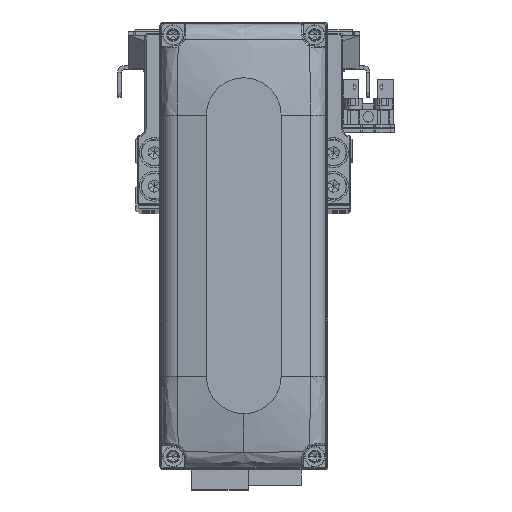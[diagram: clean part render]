
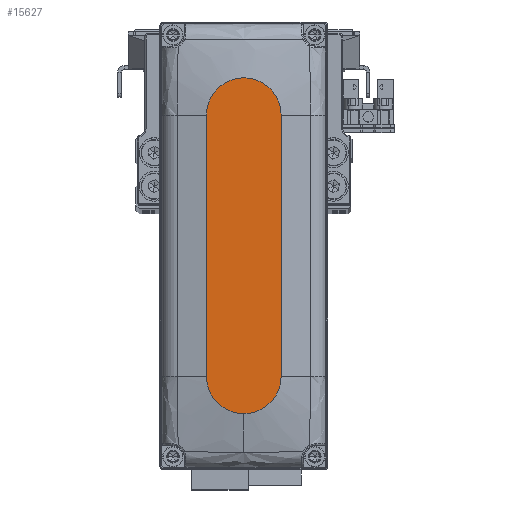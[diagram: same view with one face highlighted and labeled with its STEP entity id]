
A CAD part, top view. The second image highlights one B-rep face of the part: STEP entity #15627.
In plain terms, the highlighted planar face has unit normal (0, 0, 1).
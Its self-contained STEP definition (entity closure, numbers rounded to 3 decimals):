
#1687 = ORIENTED_EDGE ( 'NONE', *, *, #5548, .T. ) ;
#1788 = FACE_OUTER_BOUND ( 'NONE', #40710, .T. ) ;
#2600 = DIRECTION ( 'NONE',  ( 0., 0., 1. ) ) ;
#5548 = EDGE_CURVE ( 'NONE', #8058, #24538, #15238, .T. ) ;
#5943 = CARTESIAN_POINT ( 'NONE',  ( 35., 10., 28. ) ) ;
#7276 = ORIENTED_EDGE ( 'NONE', *, *, #26465, .T. ) ;
#8058 = VERTEX_POINT ( 'NONE', #10633 ) ;
#8967 = VECTOR ( 'NONE', #42406, 1000. ) ;
#9106 = ORIENTED_EDGE ( 'NONE', *, *, #41400, .T. ) ;
#9203 = CIRCLE ( 'NONE', #34469, 10. ) ;
#9444 = VERTEX_POINT ( 'NONE', #27816 ) ;
#10408 = DIRECTION ( 'NONE',  ( -1., 0., 0. ) ) ;
#10633 = CARTESIAN_POINT ( 'NONE',  ( 35., -10., 28. ) ) ;
#11067 = AXIS2_PLACEMENT_3D ( 'NONE', #29387, #43191, #12217 ) ;
#11211 = DIRECTION ( 'NONE',  ( 1., 0., 0. ) ) ;
#12217 = DIRECTION ( 'NONE',  ( 1., 0., 0. ) ) ;
#14807 = LINE ( 'NONE', #28595, #8967 ) ;
#15238 = CIRCLE ( 'NONE', #40536, 10. ) ;
#15587 = PLANE ( 'NONE',  #11067 ) ;
#15627 = ADVANCED_FACE ( 'NONE', ( #1788 ), #15587, .T. ) ;
#16393 = DIRECTION ( 'NONE',  ( 1., 0., 0. ) ) ;
#16499 = CARTESIAN_POINT ( 'NONE',  ( -35., 0., 28. ) ) ;
#17339 = VERTEX_POINT ( 'NONE', #36332 ) ;
#18384 = VECTOR ( 'NONE', #10408, 1000. ) ;
#20759 = ORIENTED_EDGE ( 'NONE', *, *, #34410, .T. ) ;
#24538 = VERTEX_POINT ( 'NONE', #41425 ) ;
#26465 = EDGE_CURVE ( 'NONE', #17339, #8058, #14807, .T. ) ;
#27586 = LINE ( 'NONE', #41397, #18384 ) ;
#27816 = CARTESIAN_POINT ( 'NONE',  ( -35., 10., 28. ) ) ;
#28389 = CARTESIAN_POINT ( 'NONE',  ( 35., 0., 28. ) ) ;
#28595 = CARTESIAN_POINT ( 'NONE',  ( -35., -10., 28. ) ) ;
#29387 = CARTESIAN_POINT ( 'NONE',  ( 0., 0., 28. ) ) ;
#30305 = DIRECTION ( 'NONE',  ( 0., 0., 1. ) ) ;
#31468 = EDGE_CURVE ( 'NONE', #24538, #38670, #37256, .T. ) ;
#33573 = CARTESIAN_POINT ( 'NONE',  ( 35., 0., 28. ) ) ;
#34410 = EDGE_CURVE ( 'NONE', #9444, #17339, #9203, .T. ) ;
#34469 = AXIS2_PLACEMENT_3D ( 'NONE', #16499, #30305, #44116 ) ;
#36332 = CARTESIAN_POINT ( 'NONE',  ( -35., -10., 28. ) ) ;
#37256 = CIRCLE ( 'NONE', #43034, 10. ) ;
#38670 = VERTEX_POINT ( 'NONE', #5943 ) ;
#40536 = AXIS2_PLACEMENT_3D ( 'NONE', #28389, #42193, #11211 ) ;
#40710 = EDGE_LOOP ( 'NONE', ( #9106, #20759, #7276, #1687, #41848 ) ) ;
#41397 = CARTESIAN_POINT ( 'NONE',  ( -35., 10., 28. ) ) ;
#41400 = EDGE_CURVE ( 'NONE', #38670, #9444, #27586, .T. ) ;
#41425 = CARTESIAN_POINT ( 'NONE',  ( 45., 0., 28. ) ) ;
#41848 = ORIENTED_EDGE ( 'NONE', *, *, #31468, .T. ) ;
#42193 = DIRECTION ( 'NONE',  ( 0., 0., 1. ) ) ;
#42406 = DIRECTION ( 'NONE',  ( 1., 0., 0. ) ) ;
#43034 = AXIS2_PLACEMENT_3D ( 'NONE', #33573, #2600, #16393 ) ;
#43191 = DIRECTION ( 'NONE',  ( 0., 0., 1. ) ) ;
#44116 = DIRECTION ( 'NONE',  ( 1., 0., 0. ) ) ;
